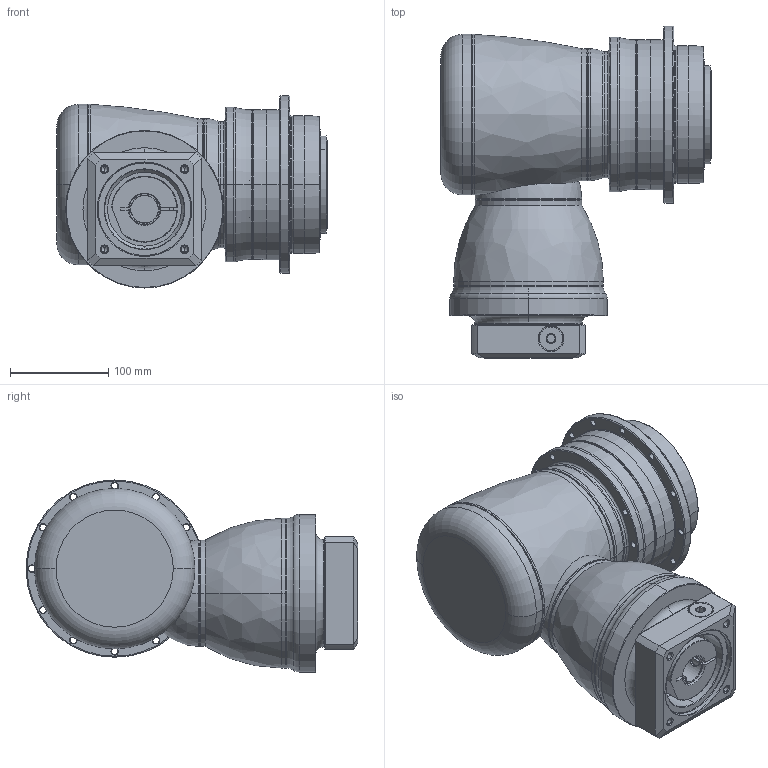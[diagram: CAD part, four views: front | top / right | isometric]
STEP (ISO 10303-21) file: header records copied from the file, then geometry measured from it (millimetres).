
FILE_DESCRIPTION((''),'2;1');
FILE_NAME('AHK140_2ST_28-P0409600101_ASM','2016-10-11T',('d01943'),(''),'PRO/ENGINEER BY PARAMETRIC TECHNOLOGY CORPORATION, 2008410','PRO/ENGINEER BY PARAMETRIC TECHNOLOGY CORPORATION, 2008410','');
FILE_SCHEMA(('CONFIG_CONTROL_DESIGN'));
Length unit declared in the file: millimetre
Products named in the file (12): P1008500002; P1802500011; P0278500003; P0359500002; P1315500001; P1007500001; P1318500101; P0503600010; P0912501201; P0409600101; 21711418017; AHK140_2ST_28-P0409600101_ASM
Assembly tree (11 placements, depth 2):
  AHK140_2ST_28-P0409600101_ASM
    P1008500002
    P1802500011
    P0278500003
    P0359500002
    P1315500001
    P1007500001
    P1318500101
    P0503600010
    P0912501201
    P0409600101
    21711418017
Bounding box: 274.5 x 337 x 195 mm (x, y, z)
Volume: 5237329.5 mm3; surface area: 638252.8 mm2
Topology: 12 solids, 12 shells, 856 faces, 1905 edges, 1101 vertices
Faces by surface type: cylinder 307, cone 272, torus 126, plane 124, bspline 25, sphere 2
Entity records: 28611 total; most frequent: CARTESIAN_POINT 9123, DIRECTION 4497, ORIENTED_EDGE 3686, AXIS2_PLACEMENT_3D 1924, EDGE_CURVE 1843, VERTEX_POINT 1101, CIRCLE 1070, EDGE_LOOP 1008
